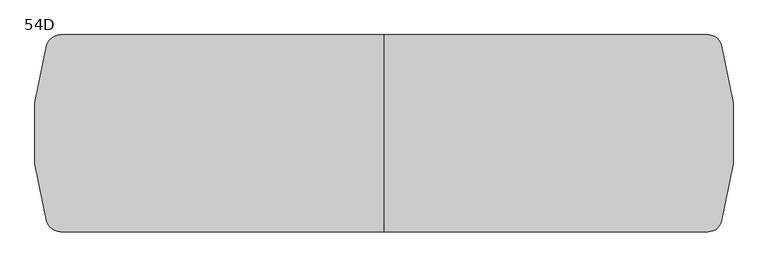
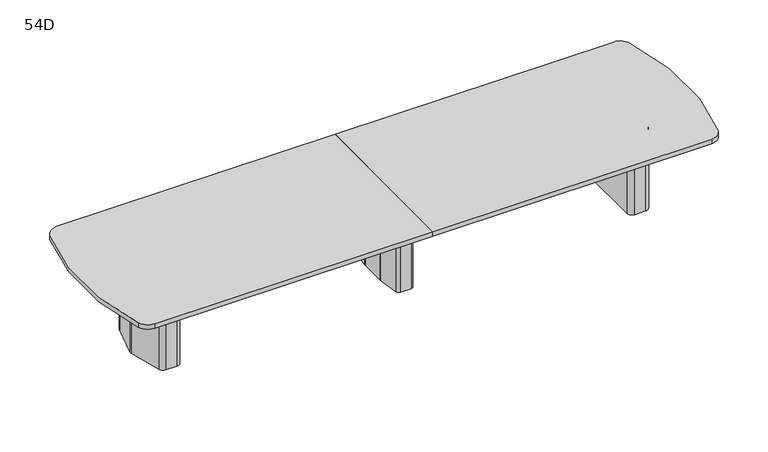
"""IFC4 building model written with IfcOpenShell, lengths in millimetres: furniture geometry, Coalesse_AM_Table_Conference_ETable2_SoftRadiused_16ft_ThreeBase : 54D."""

from ifc_helpers import new_model, si_unit, point, frame, frame_2d, origin, place, context, project, spatial, polyline, circle_curve, trimmed, segment, composite_curve, outline, extrude, source, transform, mapped, element, save
from ifc_brep_helpers import plane_surface, cylinder_surface, revolved_surface, advanced_brep


def furniture_54d_d5fc6d2a(model_context):
    return source(origin(), model_context, "Body", "SolidModel", [
        advanced_brep(
        [(35.71875, 206.375, 3.175), (10.31875, 231.775, 3.175), (-10.31875, 231.775, 3.175), (-35.71875, 206.375, 3.175), (-35.71875, -206.375, 3.175), (-10.31875, -231.775, 3.175), (10.31875, -231.775, 3.175), (35.71875, -206.375, 3.175), (-61.11875, 206.375, 0.0), (-10.31875, 257.175, 0.0), (10.31875, 257.175, 0.0), (61.11875, 206.375, 0.0), (61.11875, -206.375, 0.0), (10.31875, -257.175, 0.0), (-10.31875, -257.175, 0.0), (-61.11875, -206.375, 0.0), (-61.11875, -206.375, 3.175), (-61.11875, 206.375, 3.175), (-10.31875, -257.175, 3.175), (10.31875, -257.175, 3.175), (61.11875, -206.375, 3.175), (61.11875, 206.375, 3.175), (10.31875, 257.175, 3.175), (-10.31875, 257.175, 3.175), (-92.6215974, 106.2976848, 698.5), (-92.86875, 102.7629613, 698.5), (-92.86875, -102.7629613, 698.5), (-92.6215974, -106.2976848, 698.5), (-67.7988375, -282.9347235, 698.5), (-42.6459902, -304.8, 698.5), (42.6459902, -304.8, 698.5), (67.7988375, -282.9347235, 698.5), (92.6215974, -106.2976848, 698.5), (92.86875, -102.7629613, 698.5), (92.86875, 102.7629613, 698.5), (92.6215974, 106.2976848, 698.5), (67.7988375, 282.9347235, 698.5), (42.6459902, 304.8, 698.5), (-42.6459902, 304.8, 698.5), (-67.7988375, 282.9347235, 698.5), (10.31875, 231.775, 698.5), (35.71875, 206.375, 698.5), (35.71875, -206.375, 698.5), (10.31875, -231.775, 698.5), (-10.31875, -231.775, 698.5), (-35.71875, -206.375, 698.5), (-35.71875, 206.375, 698.5), (-10.31875, 231.775, 698.5), (-92.6215974, 106.2976848, 3.175), (-67.7988375, 282.9347235, 3.175), (-42.6459902, 304.8, 3.175), (42.6459902, 304.8, 3.175), (67.7988375, 282.9347235, 3.175), (92.6215974, 106.2976848, 3.175), (92.86875, 102.7629613, 3.175), (92.86875, -102.7629613, 3.175), (92.6215974, -106.2976848, 3.175), (67.7988375, -282.9347235, 3.175), (42.6459902, -304.8, 3.175), (-42.6459902, -304.8, 3.175), (-67.7988375, -282.9347235, 3.175), (-92.6215974, -106.2976848, 3.175), (-92.86875, -102.7629613, 3.175), (-92.86875, 102.7629613, 3.175)],
        [
            (0, 1, circle_curve(frame((10.31875, 206.375, 3.175), z_axis=(0.0, 0.0, 1.0), x_axis=(1.0, 0.0, 0.0)), 25.4)),
            (1, 2),
            (2, 3, circle_curve(frame((-10.31875, 206.375, 3.175), z_axis=(0.0, 0.0, 1.0), x_axis=(1.0, 0.0, 0.0)), 25.4)),
            (3, 4),
            (4, 5, circle_curve(frame((-10.31875, -206.375, 3.175), z_axis=(0.0, 0.0, 1.0), x_axis=(1.0, 0.0, 0.0)), 25.4)),
            (5, 6),
            (6, 7, circle_curve(frame((10.31875, -206.375, 3.175), z_axis=(0.0, 0.0, 1.0), x_axis=(1.0, 0.0, 0.0)), 25.4)),
            (7, 0),
            (8, 9, circle_curve(frame((-10.31875, 206.375, 0.0), z_axis=(0.0, 0.0, -1.0), x_axis=(1.0, 0.0, 0.0)), 50.8)),
            (9, 10),
            (10, 11, circle_curve(frame((10.31875, 206.375, 0.0), z_axis=(0.0, 0.0, -1.0), x_axis=(1.0, 0.0, 0.0)), 50.8)),
            (11, 12),
            (12, 13, circle_curve(frame((10.31875, -206.375, 0.0), z_axis=(0.0, 0.0, -1.0), x_axis=(1.0, 0.0, 0.0)), 50.8)),
            (13, 14),
            (14, 15, circle_curve(frame((-10.31875, -206.375, 0.0), z_axis=(0.0, 0.0, -1.0), x_axis=(1.0, 0.0, 0.0)), 50.8)),
            (15, 8),
            (15, 16),
            (16, 17),
            (17, 8),
            (14, 18),
            (18, 16, circle_curve(frame((-10.31875, -206.375, 3.175), z_axis=(0.0, 0.0, -1.0), x_axis=(1.0, 0.0, 0.0)), 50.8)),
            (13, 19),
            (19, 18),
            (12, 20),
            (20, 19, circle_curve(frame((10.31875, -206.375, 3.175), z_axis=(0.0, 0.0, -1.0), x_axis=(1.0, 0.0, 0.0)), 50.8)),
            (11, 21),
            (21, 20),
            (10, 22),
            (22, 21, circle_curve(frame((10.31875, 206.375, 3.175), z_axis=(0.0, 0.0, -1.0), x_axis=(1.0, 0.0, 0.0)), 50.8)),
            (9, 23),
            (23, 22),
            (17, 23, circle_curve(frame((-10.31875, 206.375, 3.175), z_axis=(0.0, 0.0, -1.0), x_axis=(1.0, 0.0, 0.0)), 50.8)),
            (24, 25, circle_curve(frame((-67.46875, 102.7629613, 698.5), z_axis=(0.0, 0.0, 1.0), x_axis=(1.0, 0.0, 0.0)), 25.4)),
            (25, 26),
            (26, 27, circle_curve(frame((-67.46875, -102.7629613, 698.5), z_axis=(0.0, 0.0, 1.0), x_axis=(1.0, 0.0, 0.0)), 25.4)),
            (27, 28),
            (28, 29, circle_curve(frame((-42.6459902, -279.4, 698.5), z_axis=(0.0, 0.0, 1.0), x_axis=(1.0, 0.0, 0.0)), 25.4)),
            (29, 30),
            (30, 31, circle_curve(frame((42.6459902, -279.4, 698.5), z_axis=(0.0, 0.0, 1.0), x_axis=(1.0, 0.0, 0.0)), 25.4)),
            (31, 32),
            (32, 33, circle_curve(frame((67.46875, -102.7629613, 698.5), z_axis=(0.0, 0.0, 1.0), x_axis=(1.0, 0.0, 0.0)), 25.4)),
            (33, 34),
            (34, 35, circle_curve(frame((67.46875, 102.7629613, 698.5), z_axis=(0.0, 0.0, 1.0), x_axis=(1.0, 0.0, 0.0)), 25.4)),
            (35, 36),
            (36, 37, circle_curve(frame((42.6459902, 279.4, 698.5), z_axis=(0.0, 0.0, 1.0), x_axis=(1.0, 0.0, 0.0)), 25.4)),
            (37, 38),
            (38, 39, circle_curve(frame((-42.6459902, 279.4, 698.5), z_axis=(0.0, 0.0, 1.0), x_axis=(1.0, 0.0, 0.0)), 25.4)),
            (39, 24),
            (40, 41, circle_curve(frame((10.31875, 206.375, 698.5), z_axis=(0.0, 0.0, -1.0), x_axis=(1.0, 0.0, 0.0)), 25.4)),
            (41, 42),
            (42, 43, circle_curve(frame((10.31875, -206.375, 698.5), z_axis=(0.0, 0.0, -1.0), x_axis=(1.0, 0.0, 0.0)), 25.4)),
            (43, 44),
            (44, 45, circle_curve(frame((-10.31875, -206.375, 698.5), z_axis=(0.0, 0.0, -1.0), x_axis=(1.0, 0.0, 0.0)), 25.4)),
            (45, 46),
            (46, 47, circle_curve(frame((-10.31875, 206.375, 698.5), z_axis=(0.0, 0.0, -1.0), x_axis=(1.0, 0.0, 0.0)), 25.4)),
            (47, 40),
            (48, 49),
            (49, 50, circle_curve(frame((-42.6459902, 279.4, 3.175), z_axis=(0.0, 0.0, -1.0), x_axis=(1.0, 0.0, 0.0)), 25.4)),
            (50, 51),
            (51, 52, circle_curve(frame((42.6459902, 279.4, 3.175), z_axis=(0.0, 0.0, -1.0), x_axis=(1.0, 0.0, 0.0)), 25.4)),
            (52, 53),
            (53, 54, circle_curve(frame((67.46875, 102.7629613, 3.175), z_axis=(0.0, 0.0, -1.0), x_axis=(1.0, 0.0, 0.0)), 25.4)),
            (54, 55),
            (55, 56, circle_curve(frame((67.46875, -102.7629613, 3.175), z_axis=(0.0, 0.0, -1.0), x_axis=(1.0, 0.0, 0.0)), 25.4)),
            (56, 57),
            (57, 58, circle_curve(frame((42.6459902, -279.4, 3.175), z_axis=(0.0, 0.0, -1.0), x_axis=(1.0, 0.0, 0.0)), 25.4)),
            (58, 59),
            (59, 60, circle_curve(frame((-42.6459902, -279.4, 3.175), z_axis=(0.0, 0.0, -1.0), x_axis=(1.0, 0.0, 0.0)), 25.4)),
            (60, 61),
            (61, 62, circle_curve(frame((-67.46875, -102.7629613, 3.175), z_axis=(0.0, 0.0, -1.0), x_axis=(1.0, 0.0, 0.0)), 25.4)),
            (62, 63),
            (63, 48, circle_curve(frame((-67.46875, 102.7629613, 3.175), z_axis=(0.0, 0.0, -1.0), x_axis=(1.0, 0.0, 0.0)), 25.4)),
            (24, 48),
            (63, 25),
            (62, 26),
            (61, 27),
            (60, 28),
            (59, 29),
            (58, 30),
            (57, 31),
            (56, 32),
            (55, 33),
            (54, 34),
            (53, 35),
            (52, 36),
            (51, 37),
            (50, 38),
            (49, 39),
            (40, 1),
            (0, 41),
            (7, 42),
            (6, 43),
            (5, 44),
            (4, 45),
            (3, 46),
            (2, 47),
        ],
        [
            plane_surface(frame((-61.11875, -206.375, 3.175), z_axis=(0.0, 0.0, 1.0), x_axis=(0.0, -1.0, 0.0))),
            plane_surface(frame((-61.11875, -206.375, 0.0), z_axis=(0.0, 0.0, -1.0), x_axis=(0.0, 1.0, 0.0))),
            plane_surface(frame((-61.11875, 206.375, 3.175), z_axis=(-1.0, 0.0, 0.0), x_axis=(0.0, 0.0, -1.0))),
            cylinder_surface(frame((-10.31875, -206.375, 0.0), z_axis=(0.0, 0.0, 1.0), x_axis=(1.0, 0.0, 0.0)), 50.8),
            plane_surface(frame((-10.31875, -257.175, 3.175), z_axis=(0.0, -1.0, 0.0), x_axis=(0.0, 0.0, -1.0))),
            cylinder_surface(frame((10.31875, -206.375, 0.0), z_axis=(0.0, 0.0, 1.0), x_axis=(1.0, 0.0, 0.0)), 50.8),
            plane_surface(frame((61.11875, -206.375, 3.175), z_axis=(1.0, 0.0, 0.0), x_axis=(0.0, 0.0, -1.0))),
            cylinder_surface(frame((10.31875, 206.375, 0.0), z_axis=(0.0, 0.0, 1.0), x_axis=(1.0, 0.0, 0.0)), 50.8),
            plane_surface(frame((10.31875, 257.175, 3.175), z_axis=(0.0, 1.0, 0.0), x_axis=(0.0, 0.0, -1.0))),
            cylinder_surface(frame((-10.31875, 206.375, 0.0), z_axis=(0.0, 0.0, 1.0), x_axis=(1.0, 0.0, 0.0)), 50.8),
            plane_surface(frame((-42.06875, 102.7629613, 698.5), z_axis=(0.0, 0.0, 1.0), x_axis=(0.0, 1.0, 0.0))),
            plane_surface(frame((-42.06875, 102.7629613, 3.175), z_axis=(0.0, 0.0, -1.0), x_axis=(0.0, -1.0, 0.0))),
            cylinder_surface(frame((-67.46875, 102.7629613, 3.175), z_axis=(0.0, 0.0, 1.0), x_axis=(1.0, 0.0, 0.0)), 25.4),
            plane_surface(frame((-92.86875, 102.7629613, 698.5), z_axis=(-1.0, 0.0, 0.0), x_axis=(0.0, 0.0, -1.0))),
            cylinder_surface(frame((-67.46875, -102.7629613, 3.175), z_axis=(0.0, 0.0, 1.0), x_axis=(1.0, 0.0, 0.0)), 25.4),
            plane_surface(frame((-92.6215974, -106.2976848, 698.5), z_axis=(-0.9902695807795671, -0.13916234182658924, 0.0), x_axis=(0.0, 0.0, -1.0))),
            cylinder_surface(frame((-42.6459902, -279.4, 3.175), z_axis=(0.0, 0.0, 1.0), x_axis=(1.0, 0.0, 0.0)), 25.4),
            plane_surface(frame((-42.6459902, -304.8, 698.5), z_axis=(0.0, -1.0, 0.0), x_axis=(0.0, 0.0, -1.0))),
            cylinder_surface(frame((42.6459902, -279.4, 3.175), z_axis=(0.0, 0.0, 1.0), x_axis=(1.0, 0.0, 0.0)), 25.4),
            plane_surface(frame((67.7988375, -282.9347235, 698.5), z_axis=(0.9902695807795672, -0.13916234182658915, 0.0), x_axis=(0.0, 0.0, -1.0))),
            cylinder_surface(frame((67.46875, -102.7629613, 3.175), z_axis=(0.0, 0.0, 1.0), x_axis=(1.0, 0.0, 0.0)), 25.4),
            plane_surface(frame((92.86875, -102.7629613, 698.5), z_axis=(1.0, 0.0, 0.0), x_axis=(0.0, 0.0, -1.0))),
            cylinder_surface(frame((67.46875, 102.7629613, 3.175), z_axis=(0.0, 0.0, 1.0), x_axis=(1.0, 0.0, 0.0)), 25.4),
            plane_surface(frame((92.6215974, 106.2976848, 698.5), z_axis=(0.9902695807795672, 0.1391623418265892, 0.0), x_axis=(0.0, 0.0, -1.0))),
            cylinder_surface(frame((42.6459902, 279.4, 3.175), z_axis=(0.0, 0.0, 1.0), x_axis=(1.0, 0.0, 0.0)), 25.4),
            plane_surface(frame((42.6459902, 304.8, 698.5), z_axis=(0.0, 1.0, 0.0), x_axis=(0.0, 0.0, -1.0))),
            cylinder_surface(frame((-42.6459902, 279.4, 3.175), z_axis=(0.0, 0.0, 1.0), x_axis=(1.0, 0.0, 0.0)), 25.4),
            plane_surface(frame((-67.7988375, 282.9347235, 698.5), z_axis=(-0.9902695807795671, 0.13916234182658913, 0.0), x_axis=(0.0, 0.0, -1.0))),
            revolved_surface(polyline([(35.71875, 206.375, 3.175), (35.71875, 206.375, 698.5)]), (10.31875, 206.375, 0.0), (0.0, 0.0, -1.0)),
            plane_surface(frame((35.71875, 206.375, 698.5), z_axis=(-1.0, 0.0, 0.0), x_axis=(0.0, 0.0, -1.0))),
            revolved_surface(polyline([(35.71875, -206.375, 3.175), (35.71875, -206.375, 698.5)]), (10.31875, -206.375, 0.0), (0.0, 0.0, -1.0)),
            plane_surface(frame((10.31875, -231.775, 698.5), z_axis=(0.0, 1.0, 0.0), x_axis=(0.0, 0.0, -1.0))),
            revolved_surface(polyline([(15.081249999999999, -206.375, 3.175), (15.081249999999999, -206.375, 698.5)]), (-10.31875, -206.375, 0.0), (0.0, 0.0, -1.0)),
            plane_surface(frame((-35.71875, -206.375, 698.5), z_axis=(1.0, 0.0, 0.0), x_axis=(0.0, 0.0, -1.0))),
            revolved_surface(polyline([(15.081249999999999, 206.375, 3.175), (15.081249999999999, 206.375, 698.5)]), (-10.31875, 206.375, 0.0), (0.0, 0.0, -1.0)),
            plane_surface(frame((-10.31875, 231.775, 698.5), z_axis=(0.0, -1.0, 0.0), x_axis=(0.0, 0.0, -1.0))),
        ],
        [
            (0, [[1, 2, 3, 4, 5, 6, 7, 8]]),
            (1, [[9, 10, 11, 12, 13, 14, 15, 16]]),
            (2, [[-16, 17, 18, 19]]),
            (3, [[-15, 20, 21, -17]]),
            (4, [[-14, 22, 23, -20]]),
            (5, [[-13, 24, 25, -22]]),
            (6, [[-12, 26, 27, -24]]),
            (7, [[-11, 28, 29, -26]]),
            (8, [[-10, 30, 31, -28]]),
            (9, [[-9, -19, 32, -30]]),
            (10, [[33, 34, 35, 36, 37, 38, 39, 40, 41, 42, 43, 44, 45, 46, 47, 48], [49, 50, 51, 52, 53, 54, 55, 56]]),
            (11, [[57, 58, 59, 60, 61, 62, 63, 64, 65, 66, 67, 68, 69, 70, 71, 72], [-18, -21, -23, -25, -27, -29, -31, -32]]),
            (12, [[-33, 73, -72, 74]]),
            (13, [[-34, -74, -71, 75]]),
            (14, [[-35, -75, -70, 76]]),
            (15, [[-36, -76, -69, 77]]),
            (16, [[-37, -77, -68, 78]]),
            (17, [[-38, -78, -67, 79]]),
            (18, [[-39, -79, -66, 80]]),
            (19, [[-40, -80, -65, 81]]),
            (20, [[-41, -81, -64, 82]]),
            (21, [[-42, -82, -63, 83]]),
            (22, [[-43, -83, -62, 84]]),
            (23, [[-44, -84, -61, 85]]),
            (24, [[-45, -85, -60, 86]]),
            (25, [[-46, -86, -59, 87]]),
            (26, [[-47, -87, -58, 88]]),
            (27, [[-48, -88, -57, -73]]),
            (28, [[-49, 89, -1, 90]]),
            (29, [[-50, -90, -8, 91]]),
            (30, [[-51, -91, -7, 92]]),
            (31, [[-52, -92, -6, 93]]),
            (32, [[-53, -93, -5, 94]]),
            (33, [[-54, -94, -4, 95]]),
            (34, [[-55, -95, -3, 96]]),
            (35, [[-56, -96, -2, -89]]),
        ],
    ),
        advanced_brep(
        [(1979.824548, 274.2093613, 698.5), (1939.9579246, 304.8, 698.5), (1851.025, 304.8, 698.5), (1809.75, 263.525, 698.5), (1809.75, -263.525, 698.5), (1851.025, -304.8, 698.5), (1939.9579246, -304.8, 698.5), (1979.824548, -274.2093613, 698.5), (2050.4503901, -10.6333708, 698.5), (2050.4503901, 10.6333708, 698.5), (1847.85, -206.375, 698.5), (1847.85, 206.375, 698.5), (1873.25, 231.775, 698.5), (1932.2608422, 231.775, 698.5), (1956.795338, 212.9490792, 698.5), (1995.4875, 68.54974, 698.5), (1995.4875, -68.54974, 698.5), (1956.795338, -212.9490792, 698.5), (1932.2608422, -231.775, 698.5), (1873.25, -231.775, 698.5), (1979.824548, 274.2093613, 3.175), (2050.4503901, 10.6333708, 3.175), (2050.4503901, -10.6333708, 3.175), (1979.824548, -274.2093613, 3.175), (1939.9579246, -304.8, 3.175), (1851.025, -304.8, 3.175), (1809.75, -263.525, 3.175), (1809.75, 263.525, 3.175), (1851.025, 304.8, 3.175), (1939.9579246, 304.8, 3.175), (1969.0625859, 216.2361187, 3.175), (1932.2608422, 244.475, 3.175), (1873.25, 244.475, 3.175), (1835.15, 206.375, 3.175), (1835.15, -206.375, 3.175), (1873.25, -244.475, 3.175), (1932.2608422, -244.475, 3.175), (1969.0625859, -216.2361187, 3.175), (2008.1875, -70.2217466, 3.175), (2008.1875, 70.2217466, 3.175), (1873.25, -231.775, 3.175), (1847.85, -206.375, 3.175), (1932.2608422, -231.775, 3.175), (1956.795338, -212.9490792, 3.175), (1995.4875, -68.54974, 3.175), (1995.4875, 68.54974, 3.175), (1956.795338, 212.9490792, 3.175), (1932.2608422, 231.775, 3.175), (1873.25, 231.775, 3.175), (1847.85, 206.375, 3.175), (1969.0625859, 216.2361187, 0.0), (2008.1875, 70.2217466, 0.0), (2008.1875, -70.2217466, 0.0), (1969.0625859, -216.2361187, 0.0), (1932.2608422, -244.475, 0.0), (1873.25, -244.475, 0.0), (1835.15, -206.375, 0.0), (1835.15, 206.375, 0.0), (1873.25, 244.475, 0.0), (1932.2608422, 244.475, 0.0)],
        [
            (0, 1, circle_curve(frame((1939.9579246, 263.5270004, 698.5), z_axis=(0.0, 0.0, 1.0), x_axis=(-1.0, 0.0, 0.0)), 41.2729996)),
            (1, 2),
            (2, 3, circle_curve(frame((1851.025, 263.525, 698.5), z_axis=(0.0, 0.0, 1.0), x_axis=(-1.0, 0.0, 0.0)), 41.275)),
            (3, 4),
            (4, 5, circle_curve(frame((1851.025, -263.525, 698.5), z_axis=(0.0, 0.0, 1.0), x_axis=(-1.0, 0.0, 0.0)), 41.275)),
            (5, 6),
            (6, 7, circle_curve(frame((1939.9579246, -263.5270004, 698.5), z_axis=(0.0, 0.0, 1.0), x_axis=(-1.0, 0.0, 0.0)), 41.2729996)),
            (7, 8),
            (8, 9, circle_curve(frame((2010.7665979, 0.0, 698.5), z_axis=(0.0, 0.0, 1.0), x_axis=(-1.0, 0.0, 0.0)), 41.0837187)),
            (9, 0),
            (10, 11),
            (11, 12, circle_curve(frame((1873.25, 206.375, 698.5), z_axis=(0.0, 0.0, -1.0), x_axis=(-1.0, 0.0, 0.0)), 25.4)),
            (12, 13),
            (13, 14, circle_curve(frame((1932.2608422, 206.375, 698.5), z_axis=(0.0, 0.0, -1.0), x_axis=(-1.0, 0.0, 0.0)), 25.4)),
            (14, 15),
            (15, 16),
            (16, 17),
            (17, 18, circle_curve(frame((1932.2608422, -206.375, 698.5), z_axis=(0.0, 0.0, -1.0), x_axis=(-1.0, 0.0, 0.0)), 25.4)),
            (18, 19),
            (19, 10, circle_curve(frame((1873.25, -206.375, 698.5), z_axis=(0.0, 0.0, -1.0), x_axis=(-1.0, 0.0, 0.0)), 25.4)),
            (20, 21),
            (21, 22, circle_curve(frame((2010.7665979, 0.0, 3.175), z_axis=(0.0, 0.0, -1.0), x_axis=(-1.0, 0.0, 0.0)), 41.0837187)),
            (22, 23),
            (23, 24, circle_curve(frame((1939.9579246, -263.5270004, 3.175), z_axis=(0.0, 0.0, -1.0), x_axis=(-1.0, 0.0, 0.0)), 41.2729996)),
            (24, 25),
            (25, 26, circle_curve(frame((1851.025, -263.525, 3.175), z_axis=(0.0, 0.0, -1.0), x_axis=(-1.0, 0.0, 0.0)), 41.275)),
            (26, 27),
            (27, 28, circle_curve(frame((1851.025, 263.525, 3.175), z_axis=(0.0, 0.0, -1.0), x_axis=(-1.0, 0.0, 0.0)), 41.275)),
            (28, 29),
            (29, 20, circle_curve(frame((1939.9579246, 263.5270004, 3.175), z_axis=(0.0, 0.0, -1.0), x_axis=(-1.0, 0.0, 0.0)), 41.2729996)),
            (30, 31, circle_curve(frame((1932.2608422, 206.375, 3.175), z_axis=(0.0, 0.0, 1.0), x_axis=(-1.0, 0.0, 0.0)), 38.1)),
            (31, 32),
            (32, 33, circle_curve(frame((1873.25, 206.375, 3.175), z_axis=(0.0, 0.0, 1.0), x_axis=(-1.0, 0.0, 0.0)), 38.1)),
            (33, 34),
            (34, 35, circle_curve(frame((1873.25, -206.375, 3.175), z_axis=(0.0, 0.0, 1.0), x_axis=(-1.0, 0.0, 0.0)), 38.1)),
            (35, 36),
            (36, 37, circle_curve(frame((1932.2608422, -206.375, 3.175), z_axis=(0.0, 0.0, 1.0), x_axis=(-1.0, 0.0, 0.0)), 38.1)),
            (37, 38),
            (38, 39),
            (39, 30),
            (9, 21),
            (20, 0),
            (8, 22),
            (7, 23),
            (6, 24),
            (5, 25),
            (4, 26),
            (3, 27),
            (2, 28),
            (1, 29),
            (19, 40),
            (40, 41, circle_curve(frame((1873.25, -206.375, 3.175), z_axis=(0.0, 0.0, -1.0), x_axis=(-1.0, 0.0, 0.0)), 25.4)),
            (41, 10),
            (18, 42),
            (42, 40),
            (17, 43),
            (43, 42, circle_curve(frame((1932.2608422, -206.375, 3.175), z_axis=(0.0, 0.0, -1.0), x_axis=(-1.0, 0.0, 0.0)), 25.4)),
            (16, 44),
            (44, 43),
            (15, 45),
            (45, 44),
            (14, 46),
            (46, 45),
            (13, 47),
            (47, 46, circle_curve(frame((1932.2608422, 206.375, 3.175), z_axis=(0.0, 0.0, -1.0), x_axis=(-1.0, 0.0, 0.0)), 25.4)),
            (12, 48),
            (48, 47),
            (11, 49),
            (49, 48, circle_curve(frame((1873.25, 206.375, 3.175), z_axis=(0.0, 0.0, -1.0), x_axis=(-1.0, 0.0, 0.0)), 25.4)),
            (41, 49),
            (50, 51),
            (51, 52),
            (52, 53),
            (53, 54, circle_curve(frame((1932.2608422, -206.375, 0.0), z_axis=(0.0, 0.0, -1.0), x_axis=(-1.0, 0.0, 0.0)), 38.1)),
            (54, 55),
            (55, 56, circle_curve(frame((1873.25, -206.375, 0.0), z_axis=(0.0, 0.0, -1.0), x_axis=(-1.0, 0.0, 0.0)), 38.1)),
            (56, 57),
            (57, 58, circle_curve(frame((1873.25, 206.375, 0.0), z_axis=(0.0, 0.0, -1.0), x_axis=(-1.0, 0.0, 0.0)), 38.1)),
            (58, 59),
            (59, 50, circle_curve(frame((1932.2608422, 206.375, 0.0), z_axis=(0.0, 0.0, -1.0), x_axis=(-1.0, 0.0, 0.0)), 38.1)),
            (50, 30),
            (39, 51),
            (38, 52),
            (37, 53),
            (36, 54),
            (35, 55),
            (34, 56),
            (33, 57),
            (32, 58),
            (31, 59),
        ],
        [
            plane_surface(frame((2050.4374275, 10.6817473, 698.5), z_axis=(0.0, 0.0, 1.0000000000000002), x_axis=(0.25882201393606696, -0.9659250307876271, 0.0))),
            plane_surface(frame((2050.4374275, 10.6817473, 3.175), z_axis=(0.0, 0.0, -1.0000000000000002), x_axis=(-0.25882201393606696, 0.9659250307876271, 0.0))),
            plane_surface(frame((1979.824548, 274.2093613, 698.5), z_axis=(0.9659250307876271, 0.25882201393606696, 0.0), x_axis=(0.0, 0.0, -1.0))),
            cylinder_surface(frame((2010.7665979, 0.0, 3.175), z_axis=(0.0, 0.0, 1.0), x_axis=(-1.0, 0.0, 0.0)), 41.0837187),
            plane_surface(frame((2050.4503901, -10.6333708, 698.5), z_axis=(0.9659250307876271, -0.2588220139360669, 0.0), x_axis=(0.0, 0.0, -1.0))),
            cylinder_surface(frame((1939.9579246, -263.5270004, 3.175), z_axis=(0.0, 0.0, 1.0), x_axis=(-1.0, 0.0, 0.0)), 41.2729996),
            plane_surface(frame((1939.9579246, -304.8, 698.5), z_axis=(0.0, -1.0, 0.0), x_axis=(0.0, 0.0, -1.0))),
            cylinder_surface(frame((1851.025, -263.525, 3.175), z_axis=(0.0, 0.0, 1.0), x_axis=(-1.0, 0.0, 0.0)), 41.275),
            plane_surface(frame((1809.75, -263.525, 698.5), z_axis=(-1.0, 0.0, 0.0), x_axis=(0.0, 0.0, -1.0))),
            cylinder_surface(frame((1851.025, 263.525, 3.175), z_axis=(0.0, 0.0, 1.0), x_axis=(-1.0, 0.0, 0.0)), 41.275),
            plane_surface(frame((1851.025, 304.8, 698.5), z_axis=(0.0, 1.0, 0.0), x_axis=(0.0, 0.0, -1.0))),
            cylinder_surface(frame((1939.9579246, 263.5270004, 3.175), z_axis=(0.0, 0.0, 1.0), x_axis=(-1.0, 0.0, 0.0)), 41.2729996),
            revolved_surface(polyline([(1847.85, -206.375, 3.175), (1847.85, -206.375, 698.5)]), (1873.25, -206.375, 0.0), (0.0, 0.0, -1.0)),
            plane_surface(frame((1873.25, -231.775, 698.5), z_axis=(0.0, 1.0, 0.0), x_axis=(0.0, 0.0, -1.0))),
            revolved_surface(polyline([(1906.8608422, -206.375, 3.175), (1906.8608422, -206.375, 698.5)]), (1932.2608422, -206.375, 0.0), (0.0, 0.0, -1.0)),
            plane_surface(frame((1956.795338, -212.9490792, 698.5), z_axis=(-0.9659250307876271, 0.2588220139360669, 0.0), x_axis=(0.0, 0.0, -1.0))),
            plane_surface(frame((1995.4875, -68.54974, 698.5), z_axis=(-1.0, 0.0, 0.0), x_axis=(0.0, 0.0, -1.0))),
            plane_surface(frame((1995.4875, 68.54974, 698.5), z_axis=(-0.9659250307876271, -0.25882201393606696, 0.0), x_axis=(0.0, 0.0, -1.0))),
            revolved_surface(polyline([(1906.8608422, 206.375, 3.175), (1906.8608422, 206.375, 698.5)]), (1932.2608422, 206.375, 0.0), (0.0, 0.0, -1.0)),
            plane_surface(frame((1932.2608422, 231.775, 698.5), z_axis=(0.0, -1.0, 0.0), x_axis=(0.0, 0.0, -1.0))),
            revolved_surface(polyline([(1847.85, 206.375, 3.175), (1847.85, 206.375, 698.5)]), (1873.25, 206.375, 0.0), (0.0, 0.0, -1.0)),
            plane_surface(frame((1847.85, 206.375, 698.5), z_axis=(1.0, 0.0, 0.0), x_axis=(0.0, 0.0, -1.0))),
            plane_surface(frame((2007.7547479, 71.8367796, 3.175), z_axis=(0.0, 0.0, 1.0), x_axis=(0.25882201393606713, -0.965925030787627, 0.0))),
            plane_surface(frame((2007.7547479, 71.8367796, 0.0), z_axis=(0.0, 0.0, -1.0), x_axis=(-0.25882201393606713, 0.965925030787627, 0.0))),
            plane_surface(frame((1969.0625859, 216.2361187, 3.175), z_axis=(0.965925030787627, 0.25882201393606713, 0.0), x_axis=(0.0, 0.0, -1.0))),
            plane_surface(frame((2008.1875, 70.2217466, 3.175), z_axis=(1.0, 0.0, 0.0), x_axis=(0.0, 0.0, -1.0))),
            plane_surface(frame((2008.1875, -70.2217466, 3.175), z_axis=(0.9659250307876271, -0.2588220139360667, 0.0), x_axis=(0.0, 0.0, -1.0))),
            cylinder_surface(frame((1932.2608422, -206.375, 0.0), z_axis=(0.0, 0.0, 1.0), x_axis=(-1.0, 0.0, 0.0)), 38.1),
            plane_surface(frame((1932.2608422, -244.475, 3.175), z_axis=(0.0, -1.0, 0.0), x_axis=(0.0, 0.0, -1.0))),
            cylinder_surface(frame((1873.25, -206.375, 0.0), z_axis=(0.0, 0.0, 1.0), x_axis=(-1.0, 0.0, 0.0)), 38.1),
            plane_surface(frame((1835.15, -206.375, 3.175), z_axis=(-1.0, 0.0, 0.0), x_axis=(0.0, 0.0, -1.0))),
            cylinder_surface(frame((1873.25, 206.375, 0.0), z_axis=(0.0, 0.0, 1.0), x_axis=(-1.0, 0.0, 0.0)), 38.1),
            plane_surface(frame((1873.25, 244.475, 3.175), z_axis=(0.0, 1.0, 0.0), x_axis=(0.0, 0.0, -1.0))),
            cylinder_surface(frame((1932.2608422, 206.375, 0.0), z_axis=(0.0, 0.0, 1.0), x_axis=(-1.0, 0.0, 0.0)), 38.1),
        ],
        [
            (0, [[1, 2, 3, 4, 5, 6, 7, 8, 9, 10], [11, 12, 13, 14, 15, 16, 17, 18, 19, 20]]),
            (1, [[21, 22, 23, 24, 25, 26, 27, 28, 29, 30], [31, 32, 33, 34, 35, 36, 37, 38, 39, 40]]),
            (2, [[41, -21, 42, -10]]),
            (3, [[43, -22, -41, -9]]),
            (4, [[44, -23, -43, -8]]),
            (5, [[45, -24, -44, -7]]),
            (6, [[46, -25, -45, -6]]),
            (7, [[47, -26, -46, -5]]),
            (8, [[48, -27, -47, -4]]),
            (9, [[49, -28, -48, -3]]),
            (10, [[50, -29, -49, -2]]),
            (11, [[-42, -30, -50, -1]]),
            (12, [[51, 52, 53, -20]]),
            (13, [[54, 55, -51, -19]]),
            (14, [[56, 57, -54, -18]]),
            (15, [[58, 59, -56, -17]]),
            (16, [[60, 61, -58, -16]]),
            (17, [[62, 63, -60, -15]]),
            (18, [[64, 65, -62, -14]]),
            (19, [[66, 67, -64, -13]]),
            (20, [[68, 69, -66, -12]]),
            (21, [[-53, 70, -68, -11]]),
            (22, [[-55, -57, -59, -61, -63, -65, -67, -69, -70, -52]]),
            (23, [[71, 72, 73, 74, 75, 76, 77, 78, 79, 80]]),
            (24, [[81, -40, 82, -71]]),
            (25, [[-82, -39, 83, -72]]),
            (26, [[-83, -38, 84, -73]]),
            (27, [[-84, -37, 85, -74]]),
            (28, [[-85, -36, 86, -75]]),
            (29, [[-86, -35, 87, -76]]),
            (30, [[-87, -34, 88, -77]]),
            (31, [[-88, -33, 89, -78]]),
            (32, [[-89, -32, 90, -79]]),
            (33, [[-90, -31, -81, -80]]),
        ],
    ),
        advanced_brep(
        [(-1979.824548, 274.2093613, 698.5), (-2050.4503901, 10.6333708, 698.5), (-2050.4503901, -10.6333708, 698.5), (-1979.824548, -274.2093613, 698.5), (-1939.9579246, -304.8, 698.5), (-1851.025, -304.8, 698.5), (-1809.75, -263.525, 698.5), (-1809.75, 263.525, 698.5), (-1851.025, 304.8, 698.5), (-1939.9579246, 304.8, 698.5), (-1847.85, -206.375, 698.5), (-1873.25, -231.775, 698.5), (-1932.2608422, -231.775, 698.5), (-1956.795338, -212.9490792, 698.5), (-1995.4875, -68.54974, 698.5), (-1995.4875, 68.54974, 698.5), (-1956.795338, 212.9490792, 698.5), (-1932.2608422, 231.775, 698.5), (-1873.25, 231.775, 698.5), (-1847.85, 206.375, 698.5), (-1979.824548, 274.2093613, 3.175), (-1939.9579246, 304.8, 3.175), (-1851.025, 304.8, 3.175), (-1809.75, 263.525, 3.175), (-1809.75, -263.525, 3.175), (-1851.025, -304.8, 3.175), (-1939.9579246, -304.8, 3.175), (-1979.824548, -274.2093613, 3.175), (-2050.4503901, -10.6333708, 3.175), (-2050.4503901, 10.6333708, 3.175), (-1969.0625859, 216.2361187, 3.175), (-2008.1875, 70.2217466, 3.175), (-2008.1875, -70.2217466, 3.175), (-1969.0625859, -216.2361187, 3.175), (-1932.2608422, -244.475, 3.175), (-1873.25, -244.475, 3.175), (-1835.15, -206.375, 3.175), (-1835.15, 206.375, 3.175), (-1873.25, 244.475, 3.175), (-1932.2608422, 244.475, 3.175), (-1847.85, -206.375, 3.175), (-1873.25, -231.775, 3.175), (-1932.2608422, -231.775, 3.175), (-1956.795338, -212.9490792, 3.175), (-1995.4875, -68.54974, 3.175), (-1995.4875, 68.54974, 3.175), (-1956.795338, 212.9490792, 3.175), (-1932.2608422, 231.775, 3.175), (-1873.25, 231.775, 3.175), (-1847.85, 206.375, 3.175), (-1969.0625859, 216.2361187, 0.0), (-1932.2608422, 244.475, 0.0), (-1873.25, 244.475, 0.0), (-1835.15, 206.375, 0.0), (-1835.15, -206.375, 0.0), (-1873.25, -244.475, 0.0), (-1932.2608422, -244.475, 0.0), (-1969.0625859, -216.2361187, 0.0), (-2008.1875, -70.2217466, 0.0), (-2008.1875, 70.2217466, 0.0)],
        [
            (0, 1),
            (1, 2, circle_curve(frame((-2010.7665979, 0.0, 698.5), z_axis=(0.0, 0.0, 1.0), x_axis=(1.0, 0.0, 0.0)), 41.0837187)),
            (2, 3),
            (3, 4, circle_curve(frame((-1939.9579246, -263.5270004, 698.5), z_axis=(0.0, 0.0, 1.0), x_axis=(1.0, 0.0, 0.0)), 41.2729996)),
            (4, 5),
            (5, 6, circle_curve(frame((-1851.025, -263.525, 698.5), z_axis=(0.0, 0.0, 1.0), x_axis=(1.0, 0.0, 0.0)), 41.275)),
            (6, 7),
            (7, 8, circle_curve(frame((-1851.025, 263.525, 698.5), z_axis=(0.0, 0.0, 1.0), x_axis=(1.0, 0.0, 0.0)), 41.275)),
            (8, 9),
            (9, 0, circle_curve(frame((-1939.9579246, 263.5270004, 698.5), z_axis=(0.0, 0.0, 1.0), x_axis=(1.0, 0.0, 0.0)), 41.2729996)),
            (10, 11, circle_curve(frame((-1873.25, -206.375, 698.5), z_axis=(0.0, 0.0, -1.0), x_axis=(1.0, 0.0, 0.0)), 25.4)),
            (11, 12),
            (12, 13, circle_curve(frame((-1932.2608422, -206.375, 698.5), z_axis=(0.0, 0.0, -1.0), x_axis=(1.0, 0.0, 0.0)), 25.4)),
            (13, 14),
            (14, 15),
            (15, 16),
            (16, 17, circle_curve(frame((-1932.2608422, 206.375, 698.5), z_axis=(0.0, 0.0, -1.0), x_axis=(1.0, 0.0, 0.0)), 25.4)),
            (17, 18),
            (18, 19, circle_curve(frame((-1873.25, 206.375, 698.5), z_axis=(0.0, 0.0, -1.0), x_axis=(1.0, 0.0, 0.0)), 25.4)),
            (19, 10),
            (20, 21, circle_curve(frame((-1939.9579246, 263.5270004, 3.175), z_axis=(0.0, 0.0, -1.0), x_axis=(1.0, 0.0, 0.0)), 41.2729996)),
            (21, 22),
            (22, 23, circle_curve(frame((-1851.025, 263.525, 3.175), z_axis=(0.0, 0.0, -1.0), x_axis=(1.0, 0.0, 0.0)), 41.275)),
            (23, 24),
            (24, 25, circle_curve(frame((-1851.025, -263.525, 3.175), z_axis=(0.0, 0.0, -1.0), x_axis=(1.0, 0.0, 0.0)), 41.275)),
            (25, 26),
            (26, 27, circle_curve(frame((-1939.9579246, -263.5270004, 3.175), z_axis=(0.0, 0.0, -1.0), x_axis=(1.0, 0.0, 0.0)), 41.2729996)),
            (27, 28),
            (28, 29, circle_curve(frame((-2010.7665979, 0.0, 3.175), z_axis=(0.0, 0.0, -1.0), x_axis=(1.0, 0.0, 0.0)), 41.0837187)),
            (29, 20),
            (30, 31),
            (31, 32),
            (32, 33),
            (33, 34, circle_curve(frame((-1932.2608422, -206.375, 3.175), z_axis=(0.0, 0.0, 1.0), x_axis=(1.0, 0.0, 0.0)), 38.1)),
            (34, 35),
            (35, 36, circle_curve(frame((-1873.25, -206.375, 3.175), z_axis=(0.0, 0.0, 1.0), x_axis=(1.0, 0.0, 0.0)), 38.1)),
            (36, 37),
            (37, 38, circle_curve(frame((-1873.25, 206.375, 3.175), z_axis=(0.0, 0.0, 1.0), x_axis=(1.0, 0.0, 0.0)), 38.1)),
            (38, 39),
            (39, 30, circle_curve(frame((-1932.2608422, 206.375, 3.175), z_axis=(0.0, 0.0, 1.0), x_axis=(1.0, 0.0, 0.0)), 38.1)),
            (0, 20),
            (29, 1),
            (28, 2),
            (27, 3),
            (26, 4),
            (25, 5),
            (24, 6),
            (23, 7),
            (22, 8),
            (21, 9),
            (10, 40),
            (40, 41, circle_curve(frame((-1873.25, -206.375, 3.175), z_axis=(0.0, 0.0, -1.0), x_axis=(1.0, 0.0, 0.0)), 25.4)),
            (41, 11),
            (41, 42),
            (42, 12),
            (42, 43, circle_curve(frame((-1932.2608422, -206.375, 3.175), z_axis=(0.0, 0.0, -1.0), x_axis=(1.0, 0.0, 0.0)), 25.4)),
            (43, 13),
            (43, 44),
            (44, 14),
            (44, 45),
            (45, 15),
            (45, 46),
            (46, 16),
            (46, 47, circle_curve(frame((-1932.2608422, 206.375, 3.175), z_axis=(0.0, 0.0, -1.0), x_axis=(1.0, 0.0, 0.0)), 25.4)),
            (47, 17),
            (47, 48),
            (48, 18),
            (48, 49, circle_curve(frame((-1873.25, 206.375, 3.175), z_axis=(0.0, 0.0, -1.0), x_axis=(1.0, 0.0, 0.0)), 25.4)),
            (49, 19),
            (49, 40),
            (50, 51, circle_curve(frame((-1932.2608422, 206.375, 0.0), z_axis=(0.0, 0.0, -1.0), x_axis=(1.0, 0.0, 0.0)), 38.1)),
            (51, 52),
            (52, 53, circle_curve(frame((-1873.25, 206.375, 0.0), z_axis=(0.0, 0.0, -1.0), x_axis=(1.0, 0.0, 0.0)), 38.1)),
            (53, 54),
            (54, 55, circle_curve(frame((-1873.25, -206.375, 0.0), z_axis=(0.0, 0.0, -1.0), x_axis=(1.0, 0.0, 0.0)), 38.1)),
            (55, 56),
            (56, 57, circle_curve(frame((-1932.2608422, -206.375, 0.0), z_axis=(0.0, 0.0, -1.0), x_axis=(1.0, 0.0, 0.0)), 38.1)),
            (57, 58),
            (58, 59),
            (59, 50),
            (59, 31),
            (30, 50),
            (58, 32),
            (57, 33),
            (56, 34),
            (55, 35),
            (54, 36),
            (53, 37),
            (52, 38),
            (51, 39),
        ],
        [
            plane_surface(frame((-2050.4374275, 10.6817473, 698.5), z_axis=(0.0, 0.0, 1.0000000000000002), x_axis=(-0.25882201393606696, -0.9659250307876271, 0.0))),
            plane_surface(frame((-2050.4374275, 10.6817473, 3.175), z_axis=(0.0, 0.0, -1.0000000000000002), x_axis=(0.25882201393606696, 0.9659250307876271, 0.0))),
            plane_surface(frame((-1979.824548, 274.2093613, 698.5), z_axis=(-0.9659250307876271, 0.25882201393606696, 0.0), x_axis=(0.0, 0.0, -1.0))),
            cylinder_surface(frame((-2010.7665979, 0.0, 3.175), z_axis=(0.0, 0.0, 1.0), x_axis=(1.0, 0.0, 0.0)), 41.0837187),
            plane_surface(frame((-2050.4503901, -10.6333708, 698.5), z_axis=(-0.9659250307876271, -0.2588220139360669, 0.0), x_axis=(0.0, 0.0, -1.0))),
            cylinder_surface(frame((-1939.9579246, -263.5270004, 3.175), z_axis=(0.0, 0.0, 1.0), x_axis=(1.0, 0.0, 0.0)), 41.2729996),
            plane_surface(frame((-1939.9579246, -304.8, 698.5), z_axis=(0.0, -1.0, 0.0), x_axis=(0.0, 0.0, -1.0))),
            cylinder_surface(frame((-1851.025, -263.525, 3.175), z_axis=(0.0, 0.0, 1.0), x_axis=(1.0, 0.0, 0.0)), 41.275),
            plane_surface(frame((-1809.75, -263.525, 698.5), z_axis=(1.0, 0.0, 0.0), x_axis=(0.0, 0.0, -1.0))),
            cylinder_surface(frame((-1851.025, 263.525, 3.175), z_axis=(0.0, 0.0, 1.0), x_axis=(1.0, 0.0, 0.0)), 41.275),
            plane_surface(frame((-1851.025, 304.8, 698.5), z_axis=(0.0, 1.0, 0.0), x_axis=(0.0, 0.0, -1.0))),
            cylinder_surface(frame((-1939.9579246, 263.5270004, 3.175), z_axis=(0.0, 0.0, 1.0), x_axis=(1.0, 0.0, 0.0)), 41.2729996),
            revolved_surface(polyline([(-1847.85, -206.375, 3.175), (-1847.85, -206.375, 698.5)]), (-1873.25, -206.375, 0.0), (0.0, 0.0, -1.0)),
            plane_surface(frame((-1873.25, -231.775, 698.5), z_axis=(0.0, 1.0, 0.0), x_axis=(0.0, 0.0, -1.0))),
            revolved_surface(polyline([(-1906.8608422, -206.375, 3.175), (-1906.8608422, -206.375, 698.5)]), (-1932.2608422, -206.375, 0.0), (0.0, 0.0, -1.0)),
            plane_surface(frame((-1956.795338, -212.9490792, 698.5), z_axis=(0.9659250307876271, 0.2588220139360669, 0.0), x_axis=(0.0, 0.0, -1.0))),
            plane_surface(frame((-1995.4875, -68.54974, 698.5), z_axis=(1.0, 0.0, 0.0), x_axis=(0.0, 0.0, -1.0))),
            plane_surface(frame((-1995.4875, 68.54974, 698.5), z_axis=(0.9659250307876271, -0.25882201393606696, 0.0), x_axis=(0.0, 0.0, -1.0))),
            revolved_surface(polyline([(-1906.8608422, 206.375, 3.175), (-1906.8608422, 206.375, 698.5)]), (-1932.2608422, 206.375, 0.0), (0.0, 0.0, -1.0)),
            plane_surface(frame((-1932.2608422, 231.775, 698.5), z_axis=(0.0, -1.0, 0.0), x_axis=(0.0, 0.0, -1.0))),
            revolved_surface(polyline([(-1847.85, 206.375, 3.175), (-1847.85, 206.375, 698.5)]), (-1873.25, 206.375, 0.0), (0.0, 0.0, -1.0)),
            plane_surface(frame((-1847.85, 206.375, 698.5), z_axis=(-1.0, 0.0, 0.0), x_axis=(0.0, 0.0, -1.0))),
            plane_surface(frame((-2007.7547479, 71.8367796, 3.175), z_axis=(0.0, 0.0, 1.0), x_axis=(-0.25882201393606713, -0.965925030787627, 0.0))),
            plane_surface(frame((-2007.7547479, 71.8367796, 0.0), z_axis=(0.0, 0.0, -1.0), x_axis=(0.25882201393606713, 0.965925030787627, 0.0))),
            plane_surface(frame((-1969.0625859, 216.2361187, 3.175), z_axis=(-0.965925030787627, 0.25882201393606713, 0.0), x_axis=(0.0, 0.0, -1.0))),
            plane_surface(frame((-2008.1875, 70.2217466, 3.175), z_axis=(-1.0, 0.0, 0.0), x_axis=(0.0, 0.0, -1.0))),
            plane_surface(frame((-2008.1875, -70.2217466, 3.175), z_axis=(-0.9659250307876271, -0.2588220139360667, 0.0), x_axis=(0.0, 0.0, -1.0))),
            cylinder_surface(frame((-1932.2608422, -206.375, 0.0), z_axis=(0.0, 0.0, 1.0), x_axis=(1.0, 0.0, 0.0)), 38.1),
            plane_surface(frame((-1932.2608422, -244.475, 3.175), z_axis=(0.0, -1.0, 0.0), x_axis=(0.0, 0.0, -1.0))),
            cylinder_surface(frame((-1873.25, -206.375, 0.0), z_axis=(0.0, 0.0, 1.0), x_axis=(1.0, 0.0, 0.0)), 38.1),
            plane_surface(frame((-1835.15, -206.375, 3.175), z_axis=(1.0, 0.0, 0.0), x_axis=(0.0, 0.0, -1.0))),
            cylinder_surface(frame((-1873.25, 206.375, 0.0), z_axis=(0.0, 0.0, 1.0), x_axis=(1.0, 0.0, 0.0)), 38.1),
            plane_surface(frame((-1873.25, 244.475, 3.175), z_axis=(0.0, 1.0, 0.0), x_axis=(0.0, 0.0, -1.0))),
            cylinder_surface(frame((-1932.2608422, 206.375, 0.0), z_axis=(0.0, 0.0, 1.0), x_axis=(1.0, 0.0, 0.0)), 38.1),
        ],
        [
            (0, [[1, 2, 3, 4, 5, 6, 7, 8, 9, 10], [11, 12, 13, 14, 15, 16, 17, 18, 19, 20]]),
            (1, [[21, 22, 23, 24, 25, 26, 27, 28, 29, 30], [31, 32, 33, 34, 35, 36, 37, 38, 39, 40]]),
            (2, [[-1, 41, -30, 42]]),
            (3, [[-2, -42, -29, 43]]),
            (4, [[-3, -43, -28, 44]]),
            (5, [[-4, -44, -27, 45]]),
            (6, [[-5, -45, -26, 46]]),
            (7, [[-6, -46, -25, 47]]),
            (8, [[-7, -47, -24, 48]]),
            (9, [[-8, -48, -23, 49]]),
            (10, [[-9, -49, -22, 50]]),
            (11, [[-10, -50, -21, -41]]),
            (12, [[-11, 51, 52, 53]]),
            (13, [[-12, -53, 54, 55]]),
            (14, [[-13, -55, 56, 57]]),
            (15, [[-14, -57, 58, 59]]),
            (16, [[-15, -59, 60, 61]]),
            (17, [[-16, -61, 62, 63]]),
            (18, [[-17, -63, 64, 65]]),
            (19, [[-18, -65, 66, 67]]),
            (20, [[-19, -67, 68, 69]]),
            (21, [[-20, -69, 70, -51]]),
            (22, [[-52, -70, -68, -66, -64, -62, -60, -58, -56, -54]]),
            (23, [[71, 72, 73, 74, 75, 76, 77, 78, 79, 80]]),
            (24, [[-80, 81, -31, 82]]),
            (25, [[-79, 83, -32, -81]]),
            (26, [[-78, 84, -33, -83]]),
            (27, [[-77, 85, -34, -84]]),
            (28, [[-76, 86, -35, -85]]),
            (29, [[-75, 87, -36, -86]]),
            (30, [[-74, 88, -37, -87]]),
            (31, [[-73, 89, -38, -88]]),
            (32, [[-72, 90, -39, -89]]),
            (33, [[-71, -82, -40, -90]]),
        ],
    ),
        extrude(outline(composite_curve([segment(trimmed(circle_curve(frame_2d((2254.0765873, 590.8588067)), 94.9411933), [point((2254.0765873, 685.8))], [point((2344.9932067, 618.2083682))], False, "CARTESIAN"), True, "CONTINUOUS"), segment(trimmed(circle_curve(frame_2d((345.905431, 0.0)), 2092.494569), [point((2344.9932067, 618.2083682))], [point((2344.9932067, -618.2083682))], False, "CARTESIAN"), True, "CONTINUOUS"), segment(trimmed(circle_curve(frame_2d((2254.0765873, -590.8588067)), 94.9411933), [point((2344.9932067, -618.2083682))], [point((2254.0765873, -685.8))], False, "CARTESIAN"), True, "CONTINUOUS"), segment(polyline([(2254.0765873, -685.8), (0.0, -685.8), (0.0, 685.8), (2254.0765873, 685.8)]), True, "CONTINUOUS")], self_intersect=False)), frame((0.0, 0.0, 698.5), z_axis=(0.0, 0.0, 1.0), x_axis=(1.0, 0.0, 0.0)), (0.0, 0.0, 1.0), 38.1),
        extrude(outline(composite_curve([segment(polyline([(0.0, 685.8), (0.0, -685.8), (-2249.2540251, -685.8)]), True, "CONTINUOUS"), segment(trimmed(circle_curve(frame_2d((-2249.2540251, -584.2)), 101.6), [point((-2249.2540251, -685.8))], [point((-2344.9932067, -618.2083682))], False, "CARTESIAN"), True, "CONTINUOUS"), segment(trimmed(circle_curve(frame_2d((-345.905431, 0.0)), 2092.494569), [point((-2344.9932067, -618.2083682))], [point((-2344.9932067, 618.2083682))], False, "CARTESIAN"), True, "CONTINUOUS"), segment(trimmed(circle_curve(frame_2d((-2249.2540251, 584.2)), 101.6), [point((-2344.9932067, 618.2083682))], [point((-2249.2540251, 685.8))], False, "CARTESIAN"), True, "CONTINUOUS"), segment(polyline([(-2249.2540251, 685.8), (0.0, 685.8)]), True, "CONTINUOUS")], self_intersect=False)), frame((0.0, 0.0, 698.5), z_axis=(0.0, 0.0, 1.0), x_axis=(1.0, 0.0, 0.0)), (0.0, 0.0, 1.0), 38.1),
        extrude(outline(polyline([(96.8375, 698.5), (103.1875, 698.5), (103.1875, 476.25), (-103.1875, 476.25), (-103.1875, 698.5), (-96.8375, 698.5), (-96.8375, 482.6), (96.8375, 482.6), (96.8375, 698.5)])), frame((-1809.75, 0.0, 0.0), z_axis=(1.0, 0.0, 0.0), x_axis=(0.0, 1.0, 0.0)), (0.0, 0.0, 1.0), 3619.5),
    ])


if __name__ == "__main__":
    model = new_model("IFC4")
    model_context = context("Model", 3, world=origin())
    ifc_project = project(units=[si_unit("LENGTHUNIT", "METRE", prefix="MILLI")], contexts=[model_context])
    site = spatial("IfcSite", under=ifc_project)
    building = spatial("IfcBuilding", under=site)
    placement = place(None, origin())
    furniture_54d_shape = furniture_54d_d5fc6d2a(model_context)
    element("IfcFurniture", 1, ObjectType="Coalesse_AM_Table_Conference_ETable2_SoftRadiused_16ft_ThreeBase : 54D", at=placement, inside=building, context=model_context, shape_type="MappedRepresentation", body=[
        mapped(furniture_54d_shape, transform((0.0, 0.0, 0.0), x_axis=(1.0, 0.0, 0.0), y_axis=(0.0, 1.0, 0.0), z_axis=(0.0, 0.0, 1.0))),
    ])
    save(model, "model.ifc")
